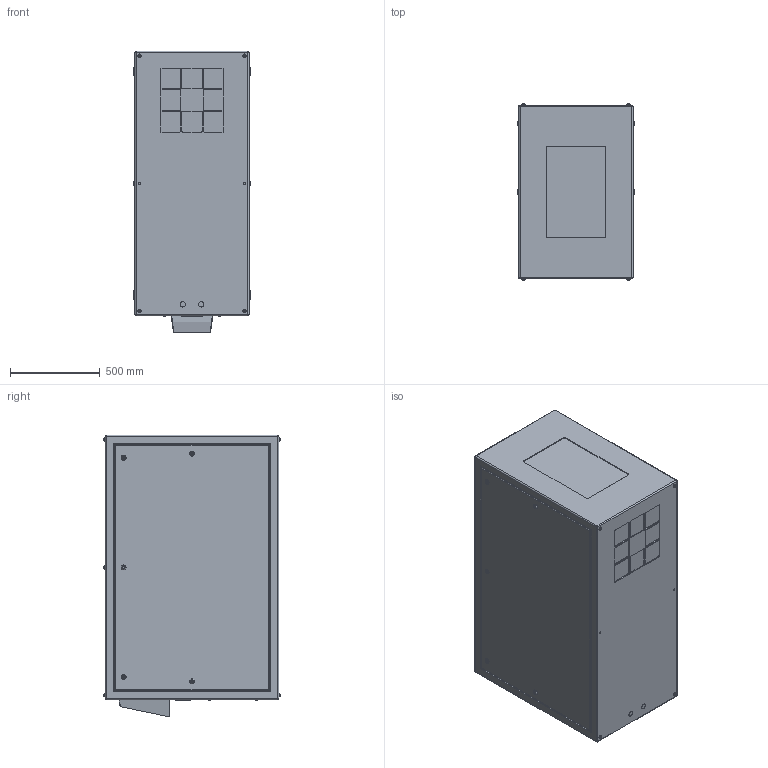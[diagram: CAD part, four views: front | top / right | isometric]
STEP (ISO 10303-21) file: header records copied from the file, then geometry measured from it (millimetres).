
FILE_DESCRIPTION (( 'STEP AP214' ), '1' );
FILE_NAME ('Cyclone 55.314.P.xx R08.STEP', '2020-08-04T22:27:47', ( '' ), ( '' ), 'SwSTEP 2.0', 'SolidWorks 2020', '' );
FILE_SCHEMA (( 'AUTOMOTIVE_DESIGN' ));
Length unit declared in the file: inch
Products named in the file (1): Cyclone 55.314.P.xx R08
Bounding box: 647.7 x 979.93 x 1568.45 mm (x, y, z)
Volume: 900810629.1 mm3; surface area: 6647699.6 mm2
Topology: 1 solids, 1 shells, 539 faces, 1254 edges, 800 vertices
Faces by surface type: plane 293, cylinder 186, torus 52, sphere 8
Entity records: 20937 total; most frequent: DIRECTION 2754, CARTESIAN_POINT 2634, ORIENTED_EDGE 2492, EDGE_CURVE 1246, AXIS2_PLACEMENT_3D 984, VERTEX_POINT 800, VECTOR 786, LINE 786
